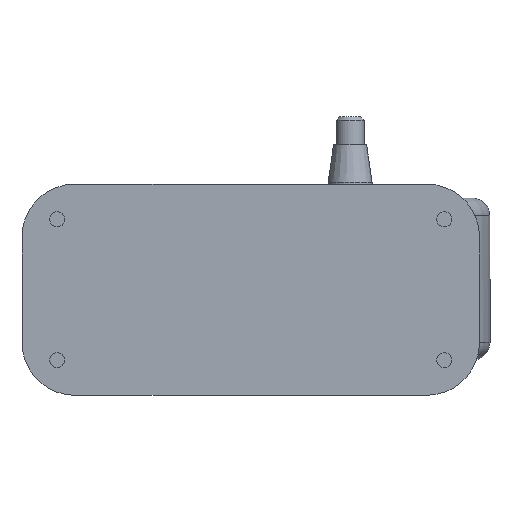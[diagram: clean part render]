
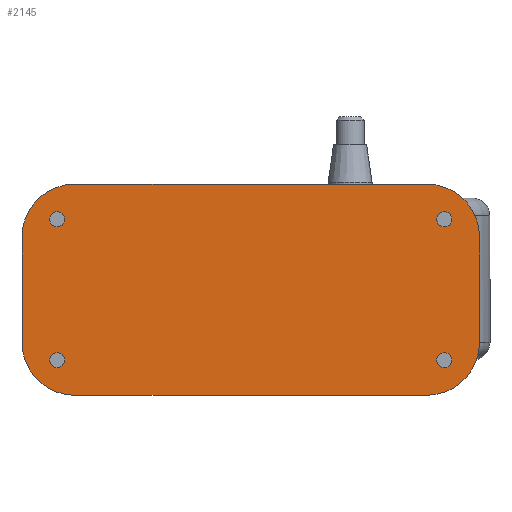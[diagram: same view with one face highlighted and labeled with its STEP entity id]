
A CAD part, front view. The second image highlights one B-rep face of the part: STEP entity #2145.
In plain terms, the highlighted planar face has unit normal (0, -1, 0).
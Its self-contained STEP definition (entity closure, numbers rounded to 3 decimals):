
#4 = CARTESIAN_POINT ( 'NONE',  ( -108.709, 0., -40. ) ) ;
#66 = VERTEX_POINT ( 'NONE', #1908 ) ;
#82 = CARTESIAN_POINT ( 'NONE',  ( -128.709, 0., 60. ) ) ;
#114 = DIRECTION ( 'NONE',  ( 0., 0., -1. ) ) ;
#117 = LINE ( 'NONE', #1858, #2019 ) ;
#147 = ORIENTED_EDGE ( 'NONE', *, *, #1970, .F. ) ;
#149 = CIRCLE ( 'NONE', #1832, 4.25 ) ;
#163 = CARTESIAN_POINT ( 'NONE',  ( -98.709, 0., -30. ) ) ;
#164 = DIRECTION ( 'NONE',  ( 0., -1., 0. ) ) ;
#166 = DIRECTION ( 'NONE',  ( -1., 0., 0. ) ) ;
#170 = CARTESIAN_POINT ( 'NONE',  ( 101.291, 0., 30. ) ) ;
#173 = CIRCLE ( 'NONE', #1260, 4.25 ) ;
#176 = VERTEX_POINT ( 'NONE', #2077 ) ;
#188 = EDGE_CURVE ( 'NONE', #1090, #338, #1957, .T. ) ;
#218 = ORIENTED_EDGE ( 'NONE', *, *, #898, .F. ) ;
#223 = VERTEX_POINT ( 'NONE', #1611 ) ;
#238 = AXIS2_PLACEMENT_3D ( 'NONE', #493, #489, #484 ) ;
#245 = CIRCLE ( 'NONE', #1872, 4.25 ) ;
#281 = DIRECTION ( 'NONE',  ( 0., -1., 0. ) ) ;
#284 = CARTESIAN_POINT ( 'NONE',  ( 111.291, 0., 40. ) ) ;
#310 = ORIENTED_EDGE ( 'NONE', *, *, #1218, .T. ) ;
#315 = ORIENTED_EDGE ( 'NONE', *, *, #2231, .F. ) ;
#326 = DIRECTION ( 'NONE',  ( 0., 0., -1. ) ) ;
#334 = CIRCLE ( 'NONE', #791, 4.25 ) ;
#338 = VERTEX_POINT ( 'NONE', #1493 ) ;
#346 = VERTEX_POINT ( 'NONE', #1599 ) ;
#352 = CARTESIAN_POINT ( 'NONE',  ( -128.709, 0., -30. ) ) ;
#361 = AXIS2_PLACEMENT_3D ( 'NONE', #426, #424, #421 ) ;
#378 = DIRECTION ( 'NONE',  ( -1., 0., 0. ) ) ;
#395 = CARTESIAN_POINT ( 'NONE',  ( -108.709, 0., 40. ) ) ;
#399 = CIRCLE ( 'NONE', #2104, 30. ) ;
#421 = DIRECTION ( 'NONE',  ( -1., 0., 0. ) ) ;
#423 = DIRECTION ( 'NONE',  ( 1., 0., 0. ) ) ;
#424 = DIRECTION ( 'NONE',  ( 0., -1., 0. ) ) ;
#426 = CARTESIAN_POINT ( 'NONE',  ( 101.291, 0., -30. ) ) ;
#427 = EDGE_CURVE ( 'NONE', #468, #520, #117, .T. ) ;
#431 = VECTOR ( 'NONE', #1962, 1000. ) ;
#458 = FACE_BOUND ( 'NONE', #748, .T. ) ;
#468 = VERTEX_POINT ( 'NONE', #1878 ) ;
#470 = VERTEX_POINT ( 'NONE', #1834 ) ;
#484 = DIRECTION ( 'NONE',  ( 1., 0., 0. ) ) ;
#489 = DIRECTION ( 'NONE',  ( 0., -1., 0. ) ) ;
#493 = CARTESIAN_POINT ( 'NONE',  ( -108.709, 0., -40. ) ) ;
#494 = ORIENTED_EDGE ( 'NONE', *, *, #984, .F. ) ;
#495 = VECTOR ( 'NONE', #114, 1000. ) ;
#511 = CARTESIAN_POINT ( 'NONE',  ( -104.459, 0., 40. ) ) ;
#520 = VERTEX_POINT ( 'NONE', #1826 ) ;
#524 = EDGE_LOOP ( 'NONE', ( #315, #218 ) ) ;
#555 = CARTESIAN_POINT ( 'NONE',  ( 131.291, 0., 30. ) ) ;
#589 = EDGE_LOOP ( 'NONE', ( #1225, #494 ) ) ;
#590 = ORIENTED_EDGE ( 'NONE', *, *, #1354, .F. ) ;
#591 = DIRECTION ( 'NONE',  ( 1., 0., 0. ) ) ;
#597 = CARTESIAN_POINT ( 'NONE',  ( -104.459, 0., -40. ) ) ;
#605 = CARTESIAN_POINT ( 'NONE',  ( -112.959, 0., 40. ) ) ;
#612 = CARTESIAN_POINT ( 'NONE',  ( 111.291, 0., -40. ) ) ;
#655 = VERTEX_POINT ( 'NONE', #1102 ) ;
#680 = DIRECTION ( 'NONE',  ( -1., 0., 0. ) ) ;
#685 = DIRECTION ( 'NONE',  ( 0., -1., 0. ) ) ;
#691 = CARTESIAN_POINT ( 'NONE',  ( -98.709, 0., 30. ) ) ;
#692 = CARTESIAN_POINT ( 'NONE',  ( 115.541, 0., 40. ) ) ;
#698 = DIRECTION ( 'NONE',  ( 1., 0., 0. ) ) ;
#699 = DIRECTION ( 'NONE',  ( 0., -1., 0. ) ) ;
#702 = CARTESIAN_POINT ( 'NONE',  ( 111.291, 0., 40. ) ) ;
#715 = ORIENTED_EDGE ( 'NONE', *, *, #427, .T. ) ;
#733 = CARTESIAN_POINT ( 'NONE',  ( -128.709, 0., 30. ) ) ;
#737 = EDGE_CURVE ( 'NONE', #1070, #1125, #149, .T. ) ;
#748 = EDGE_LOOP ( 'NONE', ( #1342, #1371 ) ) ;
#764 = DIRECTION ( 'NONE',  ( 0., 1., 0. ) ) ;
#770 = LINE ( 'NONE', #1971, #1697 ) ;
#791 = AXIS2_PLACEMENT_3D ( 'NONE', #395, #1717, #591 ) ;
#827 = DIRECTION ( 'NONE',  ( 1., 0., 0. ) ) ;
#828 = DIRECTION ( 'NONE',  ( 1., 0., 0. ) ) ;
#829 = DIRECTION ( 'NONE',  ( 0., -1., 0. ) ) ;
#832 = CARTESIAN_POINT ( 'NONE',  ( 111.291, 0., -40. ) ) ;
#898 = EDGE_CURVE ( 'NONE', #66, #470, #1440, .T. ) ;
#910 = ORIENTED_EDGE ( 'NONE', *, *, #2147, .T. ) ;
#984 = EDGE_CURVE ( 'NONE', #655, #1365, #173, .T. ) ;
#986 = EDGE_CURVE ( 'NONE', #223, #2048, #1700, .T. ) ;
#991 = AXIS2_PLACEMENT_3D ( 'NONE', #4, #2227, #1845 ) ;
#1002 = DIRECTION ( 'NONE',  ( 1., 0., 0. ) ) ;
#1014 = DIRECTION ( 'NONE',  ( 0., -1., 0. ) ) ;
#1021 = CARTESIAN_POINT ( 'NONE',  ( -108.709, 0., 40. ) ) ;
#1067 = ORIENTED_EDGE ( 'NONE', *, *, #2018, .T. ) ;
#1070 = VERTEX_POINT ( 'NONE', #605 ) ;
#1073 = VERTEX_POINT ( 'NONE', #597 ) ;
#1076 = ORIENTED_EDGE ( 'NONE', *, *, #1126, .F. ) ;
#1090 = VERTEX_POINT ( 'NONE', #555 ) ;
#1102 = CARTESIAN_POINT ( 'NONE',  ( 107.041, 0., 40. ) ) ;
#1125 = VERTEX_POINT ( 'NONE', #511 ) ;
#1126 = EDGE_CURVE ( 'NONE', #346, #1073, #1448, .T. ) ;
#1161 = EDGE_CURVE ( 'NONE', #520, #338, #1472, .T. ) ;
#1183 = AXIS2_PLACEMENT_3D ( 'NONE', #612, #1901, #828 ) ;
#1197 = EDGE_CURVE ( 'NONE', #1365, #655, #245, .T. ) ;
#1218 = EDGE_CURVE ( 'NONE', #1233, #468, #2155, .T. ) ;
#1225 = ORIENTED_EDGE ( 'NONE', *, *, #1197, .F. ) ;
#1233 = VERTEX_POINT ( 'NONE', #352 ) ;
#1243 = CIRCLE ( 'NONE', #1183, 4.25 ) ;
#1260 = AXIS2_PLACEMENT_3D ( 'NONE', #702, #699, #698 ) ;
#1342 = ORIENTED_EDGE ( 'NONE', *, *, #2192, .F. ) ;
#1354 = EDGE_CURVE ( 'NONE', #1073, #346, #2261, .T. ) ;
#1365 = VERTEX_POINT ( 'NONE', #692 ) ;
#1371 = ORIENTED_EDGE ( 'NONE', *, *, #737, .F. ) ;
#1440 = CIRCLE ( 'NONE', #1488, 4.25 ) ;
#1448 = CIRCLE ( 'NONE', #238, 4.25 ) ;
#1470 = FACE_BOUND ( 'NONE', #524, .T. ) ;
#1472 = CIRCLE ( 'NONE', #361, 30. ) ;
#1479 = EDGE_LOOP ( 'NONE', ( #590, #1076 ) ) ;
#1488 = AXIS2_PLACEMENT_3D ( 'NONE', #832, #829, #827 ) ;
#1493 = CARTESIAN_POINT ( 'NONE',  ( 131.291, 0., -30. ) ) ;
#1513 = PLANE ( 'NONE',  #2216 ) ;
#1520 = DIRECTION ( 'NONE',  ( 0., -1., 0. ) ) ;
#1541 = ORIENTED_EDGE ( 'NONE', *, *, #986, .T. ) ;
#1570 = ORIENTED_EDGE ( 'NONE', *, *, #188, .F. ) ;
#1599 = CARTESIAN_POINT ( 'NONE',  ( -112.959, 0., -40. ) ) ;
#1611 = CARTESIAN_POINT ( 'NONE',  ( -98.709, 0., 60. ) ) ;
#1631 = AXIS2_PLACEMENT_3D ( 'NONE', #691, #685, #680 ) ;
#1644 = AXIS2_PLACEMENT_3D ( 'NONE', #163, #164, #166 ) ;
#1664 = ORIENTED_EDGE ( 'NONE', *, *, #1161, .T. ) ;
#1697 = VECTOR ( 'NONE', #326, 1000. ) ;
#1700 = CIRCLE ( 'NONE', #1631, 30. ) ;
#1717 = DIRECTION ( 'NONE',  ( 0., -1., 0. ) ) ;
#1814 = EDGE_LOOP ( 'NONE', ( #715, #1664, #1570, #910, #147, #1541, #1067, #310 ) ) ;
#1826 = CARTESIAN_POINT ( 'NONE',  ( 101.291, 0., -60. ) ) ;
#1828 = DIRECTION ( 'NONE',  ( 1., 0., 0. ) ) ;
#1832 = AXIS2_PLACEMENT_3D ( 'NONE', #1021, #1014, #1002 ) ;
#1834 = CARTESIAN_POINT ( 'NONE',  ( 115.541, 0., -40. ) ) ;
#1845 = DIRECTION ( 'NONE',  ( 1., 0., 0. ) ) ;
#1858 = CARTESIAN_POINT ( 'NONE',  ( -128.709, 0., -60. ) ) ;
#1862 = CARTESIAN_POINT ( 'NONE',  ( -128.709, 0., 60. ) ) ;
#1872 = AXIS2_PLACEMENT_3D ( 'NONE', #284, #281, #423 ) ;
#1878 = CARTESIAN_POINT ( 'NONE',  ( -98.709, 0., -60. ) ) ;
#1882 = FACE_OUTER_BOUND ( 'NONE', #1814, .T. ) ;
#1901 = DIRECTION ( 'NONE',  ( 0., -1., 0. ) ) ;
#1905 = LINE ( 'NONE', #82, #431 ) ;
#1908 = CARTESIAN_POINT ( 'NONE',  ( 107.041, 0., -40. ) ) ;
#1957 = LINE ( 'NONE', #2259, #495 ) ;
#1962 = DIRECTION ( 'NONE',  ( 1., 0., 0. ) ) ;
#1970 = EDGE_CURVE ( 'NONE', #223, #176, #1905, .T. ) ;
#1971 = CARTESIAN_POINT ( 'NONE',  ( -128.709, 0., 60. ) ) ;
#2007 = DIRECTION ( 'NONE',  ( -1., 0., 0. ) ) ;
#2018 = EDGE_CURVE ( 'NONE', #2048, #1233, #770, .T. ) ;
#2019 = VECTOR ( 'NONE', #1828, 1000. ) ;
#2048 = VERTEX_POINT ( 'NONE', #733 ) ;
#2077 = CARTESIAN_POINT ( 'NONE',  ( 101.291, 0., 60. ) ) ;
#2104 = AXIS2_PLACEMENT_3D ( 'NONE', #170, #1520, #378 ) ;
#2145 = ADVANCED_FACE ( 'NONE', ( #2255, #1470, #2298, #458, #1882 ), #1513, .F. ) ;
#2147 = EDGE_CURVE ( 'NONE', #1090, #176, #399, .T. ) ;
#2155 = CIRCLE ( 'NONE', #1644, 30. ) ;
#2192 = EDGE_CURVE ( 'NONE', #1125, #1070, #334, .T. ) ;
#2216 = AXIS2_PLACEMENT_3D ( 'NONE', #1862, #764, #2007 ) ;
#2227 = DIRECTION ( 'NONE',  ( 0., -1., 0. ) ) ;
#2231 = EDGE_CURVE ( 'NONE', #470, #66, #1243, .T. ) ;
#2255 = FACE_BOUND ( 'NONE', #1479, .T. ) ;
#2259 = CARTESIAN_POINT ( 'NONE',  ( 131.291, 0., 60. ) ) ;
#2261 = CIRCLE ( 'NONE', #991, 4.25 ) ;
#2298 = FACE_BOUND ( 'NONE', #589, .T. ) ;
